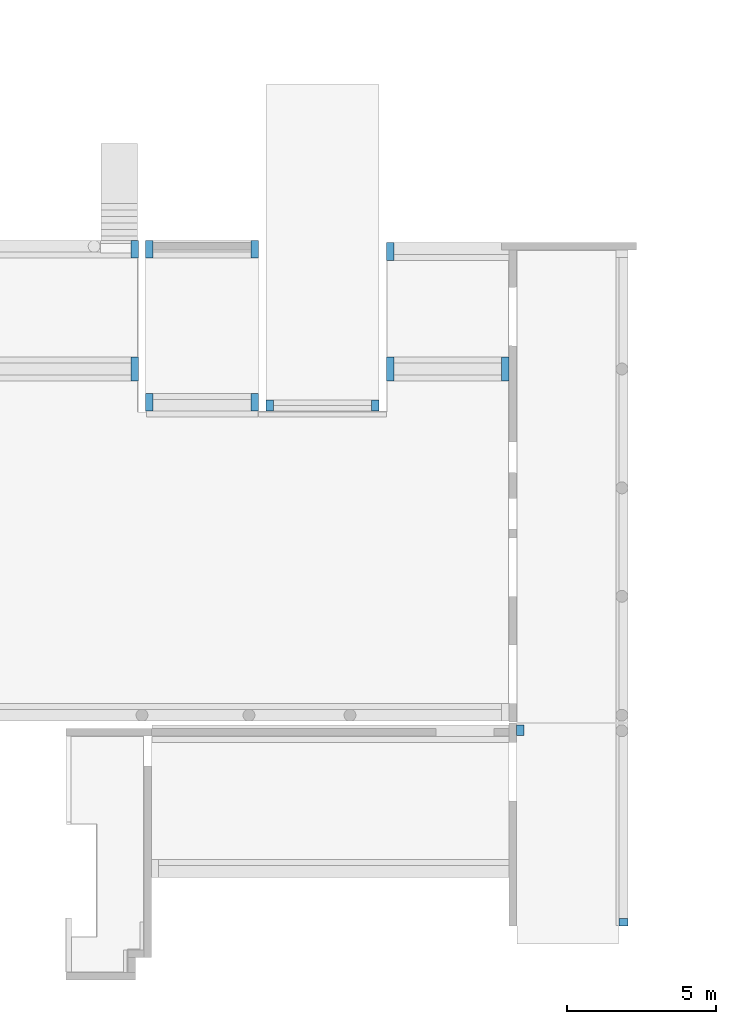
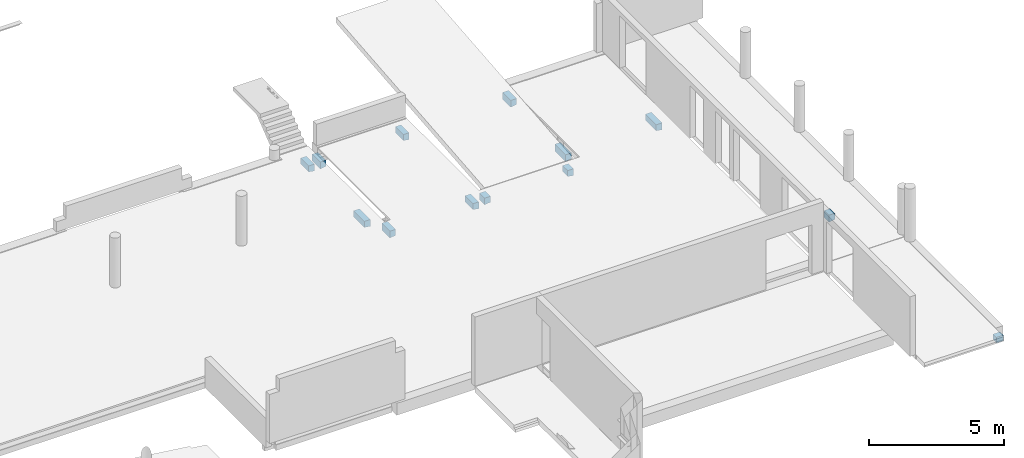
# One storey, part 8 of 9: 13 walls.
"""IFC2X3 building model written with IfcOpenShell, lengths in millimetres."""

from ifc_helpers import new_model, entity, si_unit, converted_unit, derived_unit, direction, frame, origin, place, context, subcontext, project, spatial, faceted_brep, material, type_object, element, save


model = new_model("IFC2X3")

# Units and contexts
model_context = context("Model", 3, precision=0.01, world=origin(), true_north=direction((6.12303176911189e-17, 1.0)))
body_context = subcontext(model_context, "Body", "Model", "MODEL_VIEW")
ifc_project = project(units=[si_unit("LENGTHUNIT", "METRE", prefix="MILLI"), si_unit("AREAUNIT", "SQUARE_METRE"), si_unit("VOLUMEUNIT", "CUBIC_METRE"), converted_unit("PLANEANGLEUNIT", "DEGREE", entity("IfcRatioMeasure", 0.0174532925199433), si_unit("PLANEANGLEUNIT", "RADIAN"), dimensions=[0, 0, 0, 0, 0, 0, 0]), si_unit("MASSUNIT", "GRAM", prefix="KILO"), derived_unit("MASSDENSITYUNIT", [(si_unit("MASSUNIT", "GRAM", prefix="KILO"), 1), (si_unit("LENGTHUNIT", "METRE"), -3)]), si_unit("TIMEUNIT", "SECOND"), si_unit("FREQUENCYUNIT", "HERTZ"), si_unit("THERMODYNAMICTEMPERATUREUNIT", "DEGREE_CELSIUS"), derived_unit("THERMALTRANSMITTANCEUNIT", [(si_unit("MASSUNIT", "GRAM", prefix="KILO"), 1), (si_unit("THERMODYNAMICTEMPERATUREUNIT", "KELVIN"), -1), (si_unit("TIMEUNIT", "SECOND"), -3)]), derived_unit("VOLUMETRICFLOWRATEUNIT", [(si_unit("LENGTHUNIT", "METRE"), 3), (si_unit("TIMEUNIT", "SECOND"), -1)]), si_unit("ELECTRICCURRENTUNIT", "AMPERE"), si_unit("ELECTRICVOLTAGEUNIT", "VOLT"), si_unit("POWERUNIT", "WATT"), si_unit("FORCEUNIT", "NEWTON", prefix="KILO"), si_unit("ILLUMINANCEUNIT", "LUX"), si_unit("LUMINOUSFLUXUNIT", "LUMEN"), si_unit("LUMINOUSINTENSITYUNIT", "CANDELA"), derived_unit("USERDEFINED", [(si_unit("MASSUNIT", "GRAM", prefix="KILO"), -1), (si_unit("LENGTHUNIT", "METRE"), -2), (si_unit("TIMEUNIT", "SECOND"), 3), (si_unit("LUMINOUSFLUXUNIT", "LUMEN"), 1)]), derived_unit("LINEARVELOCITYUNIT", [(si_unit("LENGTHUNIT", "METRE"), 1), (si_unit("TIMEUNIT", "SECOND"), -1)]), si_unit("PRESSUREUNIT", "PASCAL"), derived_unit("USERDEFINED", [(si_unit("LENGTHUNIT", "METRE"), -2), (si_unit("MASSUNIT", "GRAM", prefix="KILO"), 1), (si_unit("TIMEUNIT", "SECOND"), -2)])], contexts=[model_context])

# Site, building, storey
site_placement = place(None, origin())
site = spatial("IfcSite", under=ifc_project, at=site_placement, Name="Default", CompositionType="ELEMENT")
building_placement = place(site_placement, origin())
building = spatial("IfcBuilding", under=site, at=building_placement, Name="niet gebruiken", CompositionType="ELEMENT")
storey_placement = place(building_placement, frame((0.0, 0.0, 2770.0)))
storey = spatial("IfcBuildingStorey", under=building, at=storey_placement, Name="00a eerste tussenverdieping", CompositionType="ELEMENT", Elevation=2770.00000000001)

# Walls
ifc_material = material(Name="NLRS_f2_beton prefab")
wall_type_1 = type_object("IfcWallType", Name="NLRS_21.21_SF_WPB_oplegnok prefabbeton_gen:250x310", PredefinedType="NOTDEFINED", material=ifc_material)
wall_1_placement = place(storey_placement, frame((110825.0, 20446.0, -850.0), z_axis=(0.0, 0.0, 1.0), x_axis=(0.0, 1.0, 0.0)))
element("IfcWall", 1, at=wall_1_placement, inside=storey, type_object=wall_type_1, material=ifc_material, Name="NLRS_21.21_SF_WPB_oplegnok prefabbeton_gen:250x310", ObjectType="NLRS_21.21_SF_WPB_oplegnok prefabbeton_gen:250x310", context=body_context, shape_type="Brep", body=[
    faceted_brep([(0.0, 0.0, 310.0), (0.0, 0.0, 0.0), (0.0, -250.0, 39.9987607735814), (0.0, -250.0, 310.0), (800.0, 0.0, 310.0), (800.0, -250.0, 310.0), (800.0, -250.0, 39.9987607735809), (800.0, 0.0, 0.0)], [[[0, 1, 2, 3]], [[4, 5, 6, 7]], [[1, 0, 4, 7]], [[3, 2, 6, 5]], [[0, 3, 5, 4]], [[2, 1, 7, 6]]]),
])
wall_2_placement = place(storey_placement, frame((110825.0, 24501.0, -850.0), z_axis=(0.0, 0.0, 1.0), x_axis=(0.0, 1.0, 0.0)))
element("IfcWall", 2, at=wall_2_placement, inside=storey, type_object=wall_type_1, material=ifc_material, Name="NLRS_21.21_SF_WPB_oplegnok prefabbeton_gen:250x310", ObjectType="NLRS_21.21_SF_WPB_oplegnok prefabbeton_gen:250x310", context=body_context, shape_type="Brep", body=[
    faceted_brep([(0.0, 0.0, 310.0), (0.0, 0.0, 0.0), (0.0, -250.0, 39.9987607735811), (0.0, -250.0, 310.0), (600.0, 0.0, 310.0), (600.0, -250.0, 310.0), (600.0, -250.0, 39.9987607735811), (600.0, 0.0, 0.0)], [[[0, 1, 2, 3]], [[4, 5, 6, 7]], [[1, 0, 4, 7]], [[3, 2, 6, 5]], [[0, 3, 5, 4]], [[2, 1, 7, 6]]]),
])
wall_3_placement = place(storey_placement, frame((114700.00037072, 20446.0, -850.0), z_axis=(0.0, 0.0, 1.0), x_axis=(0.0, 1.0, 0.0)))
element("IfcWall", 3, at=wall_3_placement, inside=storey, type_object=wall_type_1, material=ifc_material, Name="NLRS_21.21_SF_WPB_oplegnok prefabbeton_gen:250x310", ObjectType="NLRS_21.21_SF_WPB_oplegnok prefabbeton_gen:250x310", context=body_context, shape_type="Brep", body=[
    faceted_brep([(0.0, -250.0, 310.0), (0.0, 0.0, 310.0), (0.0, 0.0, 39.9987607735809), (0.0, -250.0, 0.0), (800.0, 0.0, 39.9987607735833), (800.0, -250.0, 0.0), (800.0, -250.0, 310.0), (800.0, 0.0, 310.0)], [[[0, 1, 2, 3]], [[2, 4, 5, 3]], [[6, 5, 4, 7]], [[3, 5, 6, 0]], [[1, 7, 4, 2]], [[0, 6, 7, 1]]]),
])
wall_4_placement = place(storey_placement, frame((106275.0, 24576.0, -850.0), z_axis=(0.0, 0.0, 1.0), x_axis=(0.0, 1.0, 0.0)))
element("IfcWall", 4, at=wall_4_placement, inside=storey, type_object=wall_type_1, material=ifc_material, Name="NLRS_21.21_SF_WPB_oplegnok prefabbeton_gen:250x310", ObjectType="NLRS_21.21_SF_WPB_oplegnok prefabbeton_gen:250x310", context=body_context, shape_type="Brep", body=[
    faceted_brep([(0.0, -250.0, 310.0), (0.0, 0.0, 310.0), (0.0, 0.0, 39.9987607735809), (0.0, -250.0, 0.0), (600.0, 0.0, 39.9987607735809), (600.0, -250.0, 0.0), (600.0, -250.0, 310.0), (600.0, 0.0, 310.0)], [[[0, 1, 2, 3]], [[2, 4, 5, 3]], [[6, 5, 4, 7]], [[3, 5, 6, 0]], [[1, 7, 4, 2]], [[0, 6, 7, 1]]]),
])
wall_5_placement = place(storey_placement, frame((102225.0, 20446.0, -850.0), z_axis=(0.0, 0.0, 1.0), x_axis=(0.0, 1.0, 0.0)))
element("IfcWall", 5, at=wall_5_placement, inside=storey, type_object=wall_type_1, material=ifc_material, Name="NLRS_21.21_SF_WPB_oplegnok prefabbeton_gen:250x310", ObjectType="NLRS_21.21_SF_WPB_oplegnok prefabbeton_gen:250x310", context=body_context, shape_type="Brep", body=[
    faceted_brep([(0.0, -250.0, 310.0), (0.0, 0.0, 310.0), (0.0, 0.0, 39.9987607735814), (0.0, -250.0, 0.0), (800.0, -250.0, 310.0), (800.0, -250.0, 0.0), (800.0, 0.0, 39.9987607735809), (800.0, 0.0, 310.0)], [[[0, 1, 2, 3]], [[4, 5, 6, 7]], [[3, 5, 4, 0]], [[1, 7, 6, 2]], [[0, 4, 7, 1]], [[2, 6, 5, 3]]]),
])
wall_6_placement = place(storey_placement, frame((102725.0, 24576.0, -850.0), z_axis=(0.0, 0.0, 1.0), x_axis=(0.0, 1.0, 0.0)))
element("IfcWall", 6, at=wall_6_placement, inside=storey, type_object=wall_type_1, material=ifc_material, Name="NLRS_21.21_SF_WPB_oplegnok prefabbeton_gen:250x310", ObjectType="NLRS_21.21_SF_WPB_oplegnok prefabbeton_gen:250x310", context=body_context, shape_type="Brep", body=[
    faceted_brep([(0.0, 0.0, 310.0), (0.0, 0.0, 0.0), (0.0, -250.0, 39.9987607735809), (0.0, -250.0, 310.0), (600.0, 0.0, 310.0), (600.0, -250.0, 310.0), (600.0, -250.0, 39.9987607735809), (600.0, 0.0, 0.0)], [[[0, 1, 2, 3]], [[4, 5, 6, 7]], [[1, 0, 4, 7]], [[3, 2, 6, 5]], [[0, 3, 5, 4]], [[2, 1, 7, 6]]]),
])
wall_7_placement = place(storey_placement, frame((102225.0, 24576.0, -850.0), z_axis=(0.0, 0.0, 1.0), x_axis=(0.0, 1.0, 0.0)))
element("IfcWall", 7, at=wall_7_placement, inside=storey, type_object=wall_type_1, material=ifc_material, Name="NLRS_21.21_SF_WPB_oplegnok prefabbeton_gen:250x310", ObjectType="NLRS_21.21_SF_WPB_oplegnok prefabbeton_gen:250x310", context=body_context, shape_type="Brep", body=[
    faceted_brep([(0.0, -250.0, 310.0), (0.0, 0.0, 310.0), (0.0, 0.0, 39.9987607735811), (0.0, -250.0, 0.0), (600.0, -250.0, 310.0), (600.0, -250.0, 0.0), (600.0, 0.0, 39.9987607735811), (600.0, 0.0, 310.0)], [[[0, 1, 2, 3]], [[4, 5, 6, 7]], [[3, 5, 4, 0]], [[1, 7, 6, 2]], [[0, 4, 7, 1]], [[2, 6, 5, 3]]]),
])
wall_8_placement = place(storey_placement, frame((115200.0, 8516.0, 2120.0), z_axis=(0.0, 0.0, 1.0), x_axis=(0.0, 1.0, 0.0)))
element("IfcWall", 8, at=wall_8_placement, inside=storey, type_object=wall_type_1, material=ifc_material, Name="NLRS_21.21_SF_WPB_oplegnok prefabbeton_gen:250x310", ObjectType="NLRS_21.21_SF_WPB_oplegnok prefabbeton_gen:250x310", context=body_context, shape_type="Brep", body=[
    faceted_brep([(0.0, 0.0, 310.0), (0.0, 0.0, 0.0), (0.0, -250.0, 39.9987607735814), (0.0, -250.0, 310.0), (355.0, 0.0, 310.0), (355.0, -250.0, 310.0), (355.0, -250.0, 39.9987607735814), (355.0, 0.0, 0.0)], [[[0, 1, 2, 3]], [[4, 5, 6, 7]], [[1, 0, 4, 7]], [[3, 2, 6, 5]], [[0, 3, 5, 4]], [[2, 1, 7, 6]]]),
])
wall_type_2 = type_object("IfcWallType", Name="NLRS_21.21_SF_WPB_oplegnok prefabbeton_gen:250x270 met afschuining -9gr", PredefinedType="NOTDEFINED", material=ifc_material)
wall_9_placement = place(storey_placement, frame((106275.0, 19426.0, -849.596110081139), z_axis=(0.0, 0.0, 1.0), x_axis=(0.0, 1.0, 0.0)))
element("IfcWall", 9, at=wall_9_placement, inside=storey, type_object=wall_type_2, material=ifc_material, Name="NLRS_21.21_SF_WPB_oplegnok prefabbeton_gen:250x270 met afschuining -9gr", ObjectType="NLRS_21.21_SF_WPB_oplegnok prefabbeton_gen:250x270 met afschuining -9gr", context=body_context, shape_type="Brep", body=[
    faceted_brep([(0.0, 0.0, 309.596110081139), (0.0, 0.0, 39.5961100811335), (0.0, -250.0, 0.0), (0.0, -250.0, 309.596110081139), (600.0, 0.0, 309.596110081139), (600.0, -250.0, 309.596110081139), (600.0, -250.0, 0.0), (600.0, 0.0, 39.5961100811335)], [[[0, 1, 2, 3]], [[4, 5, 6, 7]], [[1, 0, 4, 7]], [[3, 2, 6, 5]], [[0, 3, 5, 4]], [[2, 1, 7, 6]]]),
])
wall_10_placement = place(storey_placement, frame((106775.0, 19426.0, -769.596110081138), z_axis=(0.0, 0.0, 1.0), x_axis=(0.0, 1.0, 0.0)))
element("IfcWall", 10, at=wall_10_placement, inside=storey, type_object=wall_type_2, material=ifc_material, Name="NLRS_21.21_SF_WPB_oplegnok prefabbeton_gen:250x270 met afschuining -9gr", ObjectType="NLRS_21.21_SF_WPB_oplegnok prefabbeton_gen:250x270 met afschuining -9gr", context=body_context, shape_type="Brep", body=[
    faceted_brep([(0.0, -250.0, 309.596110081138), (0.0, 0.0, 309.596110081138), (0.0, 0.0, 0.0), (0.0, -250.0, 39.5961100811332), (380.0, -250.0, 309.596110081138), (380.0, -250.0, 39.5961100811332), (380.0, 0.0, 0.0), (380.0, 0.0, 309.596110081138)], [[[0, 1, 2, 3]], [[4, 5, 6, 7]], [[3, 5, 4, 0]], [[1, 7, 6, 2]], [[0, 4, 7, 1]], [[2, 6, 5, 3]]]),
])
wall_11_placement = place(storey_placement, frame((110325.0, 19426.0, -769.596110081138), z_axis=(0.0, 0.0, 1.0), x_axis=(0.0, 1.0, 0.0)))
element("IfcWall", 11, at=wall_11_placement, inside=storey, type_object=wall_type_2, material=ifc_material, Name="NLRS_21.21_SF_WPB_oplegnok prefabbeton_gen:250x270 met afschuining -9gr", ObjectType="NLRS_21.21_SF_WPB_oplegnok prefabbeton_gen:250x270 met afschuining -9gr", context=body_context, shape_type="Brep", body=[
    faceted_brep([(0.0, 0.0, 309.596110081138), (0.0, 0.0, 39.5961100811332), (0.0, -250.0, 0.0), (0.0, -250.0, 309.596110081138), (380.0, 0.0, 309.596110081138), (380.0, -250.0, 309.596110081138), (380.0, -250.0, 0.0), (380.0, 0.0, 39.5961100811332)], [[[0, 1, 2, 3]], [[4, 5, 6, 7]], [[1, 0, 4, 7]], [[3, 2, 6, 5]], [[0, 3, 5, 4]], [[2, 1, 7, 6]]]),
])
wall_12_placement = place(storey_placement, frame((102725.0, 19426.0, -849.596110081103), z_axis=(0.0, 0.0, 1.0), x_axis=(0.0, 1.0, 0.0)))
element("IfcWall", 12, at=wall_12_placement, inside=storey, type_object=wall_type_2, material=ifc_material, Name="NLRS_21.21_SF_WPB_oplegnok prefabbeton_gen:250x270 met afschuining -9gr", ObjectType="NLRS_21.21_SF_WPB_oplegnok prefabbeton_gen:250x270 met afschuining -9gr", context=body_context, shape_type="Brep", body=[
    faceted_brep([(0.0, -250.0, 309.596110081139), (0.0, 0.0, 309.596110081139), (0.0, 0.0, 0.0), (0.0, -250.0, 39.5961100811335), (600.0, -250.0, 309.596110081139), (600.0, -250.0, 39.5961100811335), (600.0, 0.0, 0.0), (600.0, 0.0, 309.596110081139)], [[[0, 1, 2, 3]], [[4, 5, 6, 7]], [[3, 5, 4, 0]], [[1, 7, 6, 2]], [[0, 4, 7, 1]], [[2, 6, 5, 3]]]),
])
wall_type_3 = type_object("IfcWallType", Name="NLRS_21.21_SF_WPB_oplegnok prefabbeton_gen:250x260", PredefinedType="NOTDEFINED", material=ifc_material)
wall_13_placement = place(storey_placement, frame((118650.0, 2100.0, -665.0)))
element("IfcWall", 13, at=wall_13_placement, inside=storey, type_object=wall_type_3, material=ifc_material, Name="NLRS_21.21_SF_WPB_oplegnok prefabbeton_gen:250x260", ObjectType="NLRS_21.21_SF_WPB_oplegnok prefabbeton_gen:250x260", context=body_context, shape_type="Brep", body=[
    faceted_brep([(300.0, 0.0, 260.0), (300.0, 0.0, 0.0), (300.0, 250.0, 39.9987607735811), (300.0, 250.0, 260.0), (0.0, 0.0, 260.0), (0.0, 250.0, 260.0), (0.0, 250.0, 39.9987607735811), (0.0, 0.0, 0.0)], [[[0, 1, 2, 3]], [[4, 5, 6, 7]], [[1, 0, 4, 7]], [[3, 2, 6, 5]], [[0, 3, 5, 4]], [[2, 1, 7, 6]]]),
])

save(model, "model.ifc")
